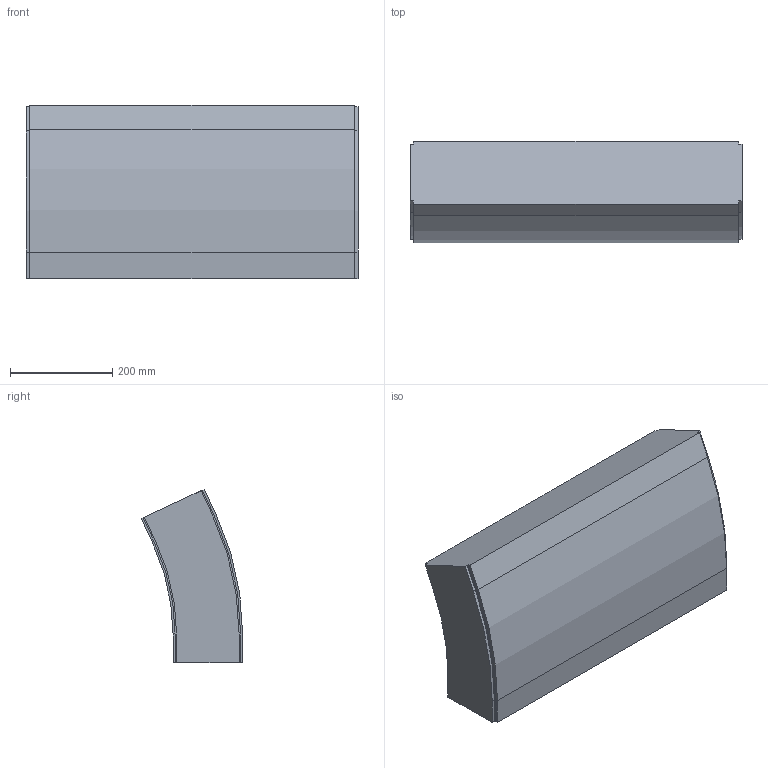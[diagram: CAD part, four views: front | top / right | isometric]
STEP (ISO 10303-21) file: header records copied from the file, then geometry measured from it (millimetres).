
FILE_DESCRIPTION (( 'STEP AP214' ), '1' );
FILE_NAME ('FS-MTC2-150-INOX verticaalbocht.650 25°.STEP', '2017-02-08T12:42:48', ( '' ), ( '' ), 'SwSTEP 2.0', 'SolidWorks 2016', '' );
FILE_SCHEMA (( 'AUTOMOTIVE_DESIGN' ));
Length unit declared in the file: millimetre
Products named in the file (1): FS-MTC2-150-INOX verticaalbocht.650 25°
Bounding box: 650.5 x 199.14 x 340.23 mm (x, y, z)
Volume: 28631632.8 mm3; surface area: 685858 mm2
Topology: 1 solids, 1 shells, 42 faces, 120 edges, 80 vertices
Faces by surface type: plane 32, cylinder 10
Entity records: 1398 total; most frequent: CARTESIAN_POINT 243, ORIENTED_EDGE 240, DIRECTION 226, EDGE_CURVE 120, LINE 100, VECTOR 100, VERTEX_POINT 80, AXIS2_PLACEMENT_3D 63
